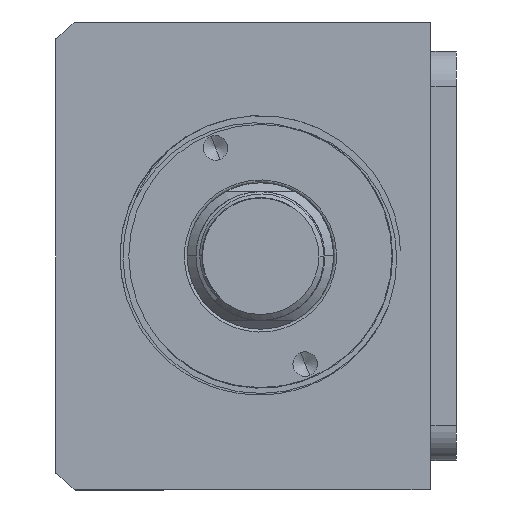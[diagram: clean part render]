
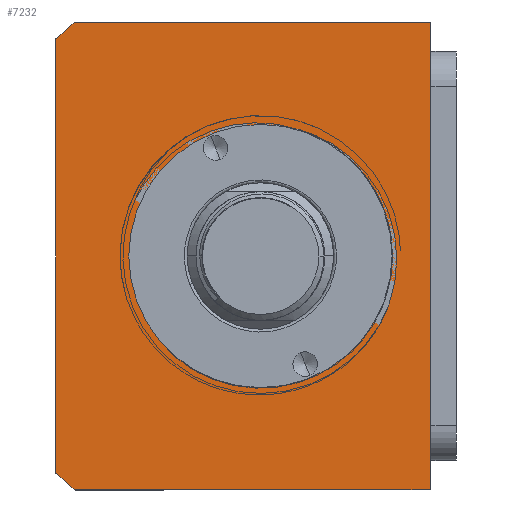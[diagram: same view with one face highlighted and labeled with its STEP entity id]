
A CAD part, front view. The second image highlights one B-rep face of the part: STEP entity #7232.
In plain terms, the highlighted planar face has unit normal (0, -1, 0) as drawn and (0, 0, 1) by its records, which use the part's own axes.
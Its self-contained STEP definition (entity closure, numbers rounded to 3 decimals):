
#159 = ORIENTED_EDGE ( 'NONE', *, *, #5167, .T. ) ;
#181 = LINE ( 'NONE', #15090, #6538 ) ;
#445 = DIRECTION ( 'NONE',  ( 0., 0., 1. ) ) ;
#744 = CARTESIAN_POINT ( 'NONE',  ( 22.5, -40.507, 140. ) ) ;
#801 = CARTESIAN_POINT ( 'NONE',  ( -40., -11.507, 140. ) ) ;
#847 = EDGE_CURVE ( 'NONE', #14306, #16893, #8229, .T. ) ;
#872 = CIRCLE ( 'NONE', #7526, 22.5 ) ;
#1128 = DIRECTION ( 'NONE',  ( 1., 0., 0. ) ) ;
#1204 = CARTESIAN_POINT ( 'NONE',  ( 0., -40.507, 140. ) ) ;
#1227 = CIRCLE ( 'NONE', #15899, 51. ) ;
#1653 = ORIENTED_EDGE ( 'NONE', *, *, #8552, .T. ) ;
#1708 = CARTESIAN_POINT ( 'NONE',  ( 40., -11.507, 140. ) ) ;
#2523 = FACE_BOUND ( 'NONE', #4851, .T. ) ;
#2567 = DIRECTION ( 'NONE',  ( 1., 0., 0. ) ) ;
#2949 = AXIS2_PLACEMENT_3D ( 'NONE', #5834, #15335, #7182 ) ;
#3068 = CARTESIAN_POINT ( 'NONE',  ( -22.5, -40.507, 140. ) ) ;
#3540 = ORIENTED_EDGE ( 'NONE', *, *, #8112, .F. ) ;
#3767 = CIRCLE ( 'NONE', #10775, 22.5 ) ;
#4391 = ORIENTED_EDGE ( 'NONE', *, *, #5477, .T. ) ;
#4476 = VERTEX_POINT ( 'NONE', #8073 ) ;
#4621 = CARTESIAN_POINT ( 'NONE',  ( 0., -40.507, 140. ) ) ;
#4733 = VERTEX_POINT ( 'NONE', #3068 ) ;
#4851 = EDGE_LOOP ( 'NONE', ( #9042, #3540 ) ) ;
#4997 = CARTESIAN_POINT ( 'NONE',  ( 40., -11.507, 140. ) ) ;
#5167 = EDGE_CURVE ( 'NONE', #4476, #9113, #8731, .T. ) ;
#5206 = CARTESIAN_POINT ( 'NONE',  ( -37.094, -75.507, 140. ) ) ;
#5279 = FACE_OUTER_BOUND ( 'NONE', #8745, .T. ) ;
#5477 = EDGE_CURVE ( 'NONE', #16893, #8989, #17440, .T. ) ;
#5834 = CARTESIAN_POINT ( 'NONE',  ( 0., -40.507, 140. ) ) ;
#5990 = DIRECTION ( 'NONE',  ( 1., 0., 0. ) ) ;
#6538 = VECTOR ( 'NONE', #6954, 1000. ) ;
#6954 = DIRECTION ( 'NONE',  ( 1., 0., 0. ) ) ;
#7033 = DIRECTION ( 'NONE',  ( 0., -1., 0. ) ) ;
#7054 = EDGE_CURVE ( 'NONE', #8854, #4476, #181, .T. ) ;
#7182 = DIRECTION ( 'NONE',  ( 1., 0., 0. ) ) ;
#7183 = DIRECTION ( 'NONE',  ( -1., 0., 0. ) ) ;
#7232 = ADVANCED_FACE ( 'NONE', ( #2523, #5279 ), #10032, .T. ) ;
#7526 = AXIS2_PLACEMENT_3D ( 'NONE', #1204, #10667, #2567 ) ;
#8073 = CARTESIAN_POINT ( 'NONE',  ( 37.094, -75.507, 140. ) ) ;
#8112 = EDGE_CURVE ( 'NONE', #4733, #11594, #3767, .T. ) ;
#8220 = ORIENTED_EDGE ( 'NONE', *, *, #16966, .T. ) ;
#8229 = LINE ( 'NONE', #16508, #15455 ) ;
#8552 = EDGE_CURVE ( 'NONE', #8989, #8854, #1227, .T. ) ;
#8661 = CARTESIAN_POINT ( 'NONE',  ( 0., 0., 140. ) ) ;
#8731 = CIRCLE ( 'NONE', #2949, 51. ) ;
#8745 = EDGE_LOOP ( 'NONE', ( #4391, #1653, #9700, #159, #8220, #16288 ) ) ;
#8854 = VERTEX_POINT ( 'NONE', #5206 ) ;
#8989 = VERTEX_POINT ( 'NONE', #16219 ) ;
#9042 = ORIENTED_EDGE ( 'NONE', *, *, #10438, .F. ) ;
#9113 = VERTEX_POINT ( 'NONE', #16395 ) ;
#9242 = DIRECTION ( 'NONE',  ( 0., 0., 1. ) ) ;
#9700 = ORIENTED_EDGE ( 'NONE', *, *, #7054, .T. ) ;
#10032 = PLANE ( 'NONE',  #11982 ) ;
#10438 = EDGE_CURVE ( 'NONE', #11594, #4733, #872, .T. ) ;
#10637 = VECTOR ( 'NONE', #7033, 1000. ) ;
#10667 = DIRECTION ( 'NONE',  ( 0., 0., 1. ) ) ;
#10775 = AXIS2_PLACEMENT_3D ( 'NONE', #17382, #9242, #1128 ) ;
#11332 = VECTOR ( 'NONE', #13135, 1000. ) ;
#11406 = DIRECTION ( 'NONE',  ( 1., 0., 0. ) ) ;
#11594 = VERTEX_POINT ( 'NONE', #744 ) ;
#11982 = AXIS2_PLACEMENT_3D ( 'NONE', #8661, #445, #11406 ) ;
#13135 = DIRECTION ( 'NONE',  ( 0., 1., 0. ) ) ;
#14123 = DIRECTION ( 'NONE',  ( 0., 0., 1. ) ) ;
#14306 = VERTEX_POINT ( 'NONE', #1708 ) ;
#15090 = CARTESIAN_POINT ( 'NONE',  ( -40., -75.507, 140. ) ) ;
#15180 = CARTESIAN_POINT ( 'NONE',  ( -40., -11.507, 140. ) ) ;
#15335 = DIRECTION ( 'NONE',  ( 0., 0., 1. ) ) ;
#15375 = LINE ( 'NONE', #4997, #11332 ) ;
#15455 = VECTOR ( 'NONE', #7183, 1000. ) ;
#15899 = AXIS2_PLACEMENT_3D ( 'NONE', #4621, #14123, #5990 ) ;
#16219 = CARTESIAN_POINT ( 'NONE',  ( -40., -72.145, 140. ) ) ;
#16288 = ORIENTED_EDGE ( 'NONE', *, *, #847, .T. ) ;
#16395 = CARTESIAN_POINT ( 'NONE',  ( 40., -72.145, 140. ) ) ;
#16508 = CARTESIAN_POINT ( 'NONE',  ( -40., -11.507, 140. ) ) ;
#16893 = VERTEX_POINT ( 'NONE', #801 ) ;
#16966 = EDGE_CURVE ( 'NONE', #9113, #14306, #15375, .T. ) ;
#17382 = CARTESIAN_POINT ( 'NONE',  ( 0., -40.507, 140. ) ) ;
#17440 = LINE ( 'NONE', #15180, #10637 ) ;
